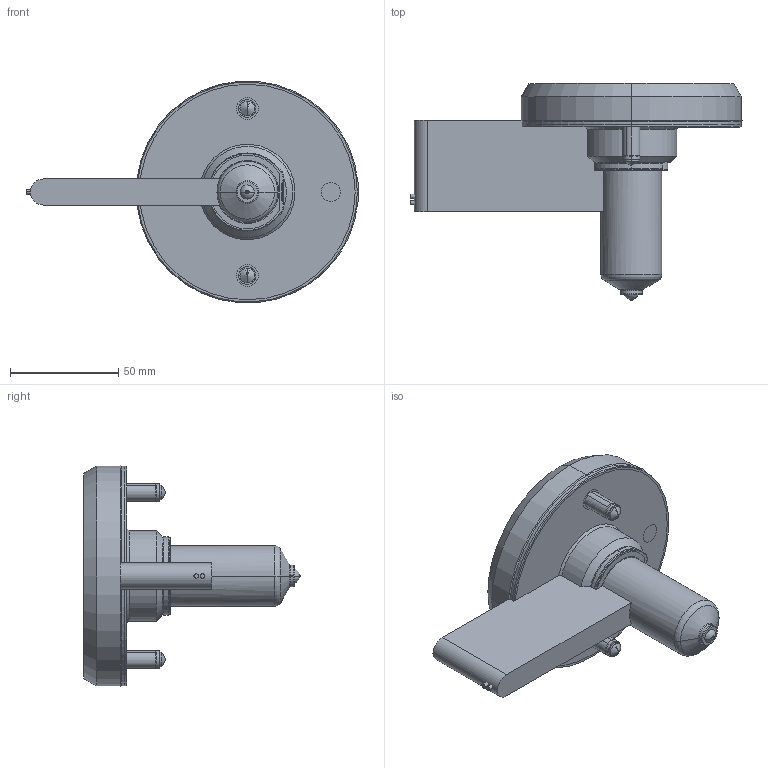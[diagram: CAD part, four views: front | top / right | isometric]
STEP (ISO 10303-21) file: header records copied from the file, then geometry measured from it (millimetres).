
FILE_DESCRIPTION (( 'STEP AP214' ), '1' );
FILE_NAME ('SOHSB6060-SOPAG06.STEP', '2024-11-29T06:25:50', ( '' ), ( '' ), 'SwSTEP 2.0', 'SolidWorks 2022', '' );
FILE_SCHEMA (( 'AUTOMOTIVE_DESIGN' ));
Length unit declared in the file: millimetre
Products named in the file (11): EcoONE-HSB06-Open Gate Cut-out Details_Point Gate; hexagon socket head cap screws gb_GB_FASTENER_SCREWS_HSHCS M8X25-C; EcoONE-HSB06-Open Gate Bodiless Retainer Tip_SOBRT0601; EcoONE-HSB06-06003(A)_SOHSBNB6060; EcoONE-HSB06-06005_SOTC10200-J; EcoONE-HSB06-Point Gate Needle Tip-Standard_SOPGN0601; EcoONE-HSB06-Point Gate standard Tip Assembly_SOPGA06; EcoONE-HSB06-06006(A)_SONHC06; EcoONE-HSB06-00002(A)_SOHSBLR06; SOHSB6060-SOPAG06; EcoONE-HSB06-06004_SONH18055
Assembly tree (12 placements, depth 3):
  SOHSB6060-SOPAG06
    EcoONE-HSB06-06003(A)_SOHSBNB6060
    EcoONE-HSB06-06004_SONH18055
    EcoONE-HSB06-06005_SOTC10200-J
    EcoONE-HSB06-06006(A)_SONHC06  x2
    EcoONE-HSB06-00002(A)_SOHSBLR06
    hexagon socket head cap screws gb_GB_FASTENER_SCREWS_HSHCS M8X25-C  x2
    EcoONE-HSB06-Point Gate standard Tip Assembly_SOPGA06
      EcoONE-HSB06-Open Gate Bodiless Retainer Tip_SOBRT0601
      EcoONE-HSB06-Point Gate Needle Tip-Standard_SOPGN0601
    EcoONE-HSB06-Open Gate Cut-out Details_Point Gate
Bounding box: 153.01 x 100 x 102.14 mm (x, y, z)
Volume: 283194.6 mm3; surface area: 82110.1 mm2
Topology: 11 solids, 11 shells, 501 faces, 1258 edges, 794 vertices
Faces by surface type: cylinder 154, plane 128, bspline 110, cone 77, torus 24, sphere 8
Entity records: 30249 total; most frequent: CARTESIAN_POINT 19164, ORIENTED_EDGE 2304, DIRECTION 1869, EDGE_CURVE 1152, AXIS2_PLACEMENT_3D 757, VERTEX_POINT 733, EDGE_LOOP 501, ADVANCED_FACE 460
